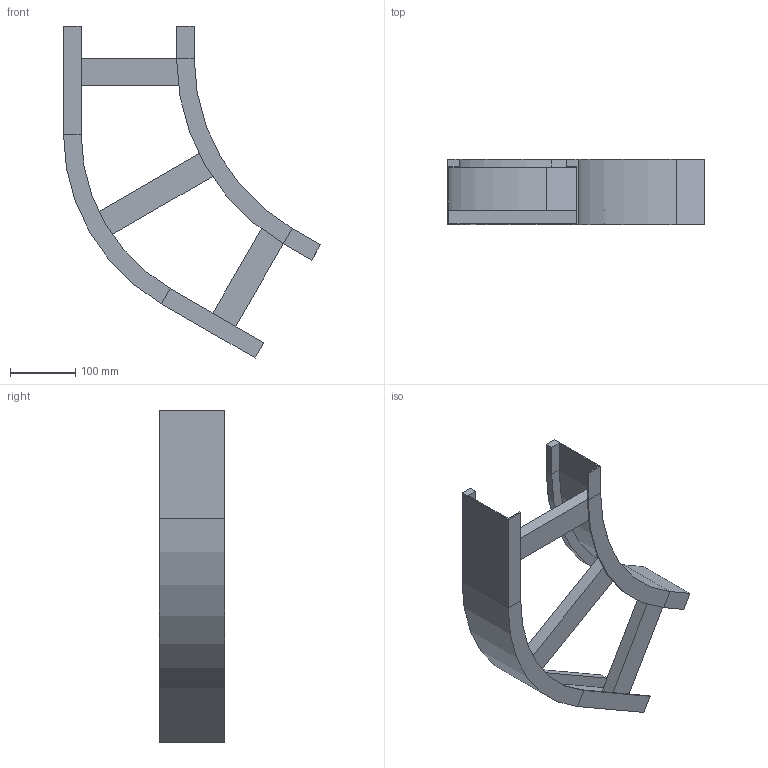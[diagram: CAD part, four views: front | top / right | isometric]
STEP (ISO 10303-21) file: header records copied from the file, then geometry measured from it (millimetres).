
FILE_DESCRIPTION (( 'STEP AP214' ), '1' );
FILE_NAME ('B2_13B3D200.step', '2025-02-21T15:18:12', ( '' ), ( '' ), 'SwSTEP 2.0', 'SolidWorks 2023', '' );
FILE_SCHEMA (( 'AUTOMOTIVE_DESIGN' ));
Length unit declared in the file: millimetre
Products named in the file (5): B2_13B3D200; TRAVERSINO_200; B2_LONGH.INTERNO 60°_H100_R300; B2_LONGH.ESTERNO 60°_H100_R300+200; TRAVERSINO_L226
Assembly tree (5 placements, depth 2):
  B2_13B3D200
    B2_LONGH.INTERNO 60°_H100_R300
    B2_LONGH.ESTERNO 60°_H100_R300+200
    TRAVERSINO_200  x2
    TRAVERSINO_L226
Bounding box: 393.3 x 100 x 508.01 mm (x, y, z)
Volume: 968772.3 mm3; surface area: 384354 mm2
Topology: 5 solids, 5 shells, 70 faces, 148 edges, 88 vertices
Faces by surface type: plane 62, cylinder 8
Entity records: 1822 total; most frequent: DIRECTION 296, CARTESIAN_POINT 288, ORIENTED_EDGE 272, EDGE_CURVE 136, LINE 120, VECTOR 120, AXIS2_PLACEMENT_3D 88, VERTEX_POINT 80
